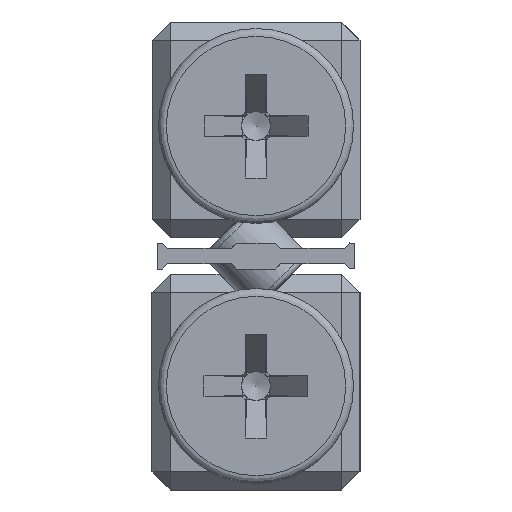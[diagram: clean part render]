
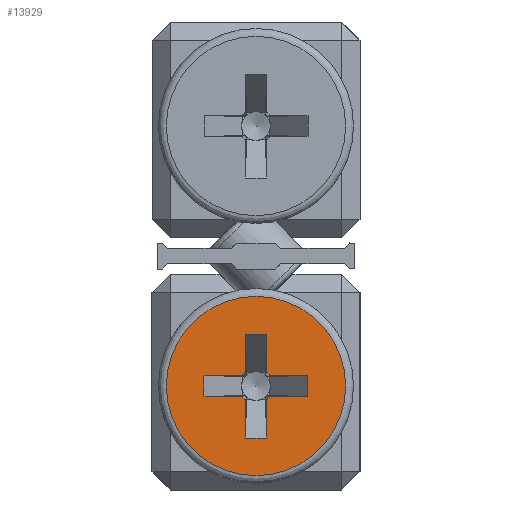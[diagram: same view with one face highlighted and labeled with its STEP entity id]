
A CAD part, left-side view. The second image highlights one B-rep face of the part: STEP entity #13929.
In plain terms, the highlighted planar face has unit normal (-1, 0, 0).
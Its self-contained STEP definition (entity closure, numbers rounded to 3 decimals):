
#73 = EDGE_CURVE ( 'NONE', #12546, #3795, #18029, .T. ) ;
#181 = DIRECTION ( 'NONE',  ( 0., 0., -1. ) ) ;
#473 = VECTOR ( 'NONE', #20820, 1000. ) ;
#956 = EDGE_CURVE ( 'NONE', #15979, #11826, #19957, .T. ) ;
#1233 = DIRECTION ( 'NONE',  ( 0., 0., 1. ) ) ;
#1720 = VERTEX_POINT ( 'NONE', #4071 ) ;
#1757 = CARTESIAN_POINT ( 'NONE',  ( -102., 2., 4.4 ) ) ;
#1973 = VECTOR ( 'NONE', #21692, 1000. ) ;
#2066 = DIRECTION ( 'NONE',  ( 0., 0., -1. ) ) ;
#2179 = CARTESIAN_POINT ( 'NONE',  ( -102., -0.4, 6. ) ) ;
#2181 = VERTEX_POINT ( 'NONE', #15839 ) ;
#2195 = CARTESIAN_POINT ( 'NONE',  ( -102., -0.4, 6. ) ) ;
#2278 = VECTOR ( 'NONE', #6569, 1000. ) ;
#2405 = EDGE_CURVE ( 'NONE', #15979, #13495, #13622, .T. ) ;
#2745 = CARTESIAN_POINT ( 'NONE',  ( -102., -2., 3.6 ) ) ;
#3152 = CIRCLE ( 'NONE', #19480, 0.678 ) ;
#3277 = ORIENTED_EDGE ( 'NONE', *, *, #956, .T. ) ;
#3280 = ORIENTED_EDGE ( 'NONE', *, *, #7242, .F. ) ;
#3320 = AXIS2_PLACEMENT_3D ( 'NONE', #9190, #5351, #12439 ) ;
#3795 = VERTEX_POINT ( 'NONE', #14880 ) ;
#4071 = CARTESIAN_POINT ( 'NONE',  ( -102., 0.4, 6. ) ) ;
#4437 = VERTEX_POINT ( 'NONE', #5511 ) ;
#4710 = CARTESIAN_POINT ( 'NONE',  ( -102., -2., 3.6 ) ) ;
#4948 = CARTESIAN_POINT ( 'NONE',  ( -102., 0.4, 4.548 ) ) ;
#5039 = VECTOR ( 'NONE', #10320, 1000. ) ;
#5235 = DIRECTION ( 'NONE',  ( 0., 1., 0. ) ) ;
#5238 = CARTESIAN_POINT ( 'NONE',  ( -102., 0.4, 2. ) ) ;
#5332 = LINE ( 'NONE', #9053, #17036 ) ;
#5351 = DIRECTION ( 'NONE',  ( 1., 0., 0. ) ) ;
#5384 = VERTEX_POINT ( 'NONE', #13680 ) ;
#5401 = DIRECTION ( 'NONE',  ( -1., 0., 0. ) ) ;
#5402 = ORIENTED_EDGE ( 'NONE', *, *, #12612, .T. ) ;
#5511 = CARTESIAN_POINT ( 'NONE',  ( -102., -0.4, 4.548 ) ) ;
#5538 = CARTESIAN_POINT ( 'NONE',  ( -102., 0.4, 3.452 ) ) ;
#5805 = DIRECTION ( 'NONE',  ( 0., 0., 1. ) ) ;
#5919 = CARTESIAN_POINT ( 'NONE',  ( -102., 2., 4.4 ) ) ;
#5974 = AXIS2_PLACEMENT_3D ( 'NONE', #13572, #5401, #1233 ) ;
#6124 = EDGE_CURVE ( 'NONE', #6417, #10355, #19104, .T. ) ;
#6346 = ORIENTED_EDGE ( 'NONE', *, *, #16851, .F. ) ;
#6417 = VERTEX_POINT ( 'NONE', #8171 ) ;
#6569 = DIRECTION ( 'NONE',  ( 0., 0., 1. ) ) ;
#6666 = CIRCLE ( 'NONE', #20037, 0.678 ) ;
#6712 = LINE ( 'NONE', #2745, #5039 ) ;
#6956 = DIRECTION ( 'NONE',  ( -1., 0., 0. ) ) ;
#7186 = DIRECTION ( 'NONE',  ( 0., 0., 1. ) ) ;
#7242 = EDGE_CURVE ( 'NONE', #8639, #11826, #11531, .T. ) ;
#7272 = AXIS2_PLACEMENT_3D ( 'NONE', #15046, #17808, #12149 ) ;
#7470 = CARTESIAN_POINT ( 'NONE',  ( -102., -0.4, 2. ) ) ;
#7649 = VERTEX_POINT ( 'NONE', #18078 ) ;
#7760 = ORIENTED_EDGE ( 'NONE', *, *, #20269, .F. ) ;
#7856 = LINE ( 'NONE', #14935, #11150 ) ;
#7866 = CARTESIAN_POINT ( 'NONE',  ( -102., 0.548, 3.6 ) ) ;
#8171 = CARTESIAN_POINT ( 'NONE',  ( -102., -2., 3.6 ) ) ;
#8196 = LINE ( 'NONE', #4710, #2278 ) ;
#8362 = ORIENTED_EDGE ( 'NONE', *, *, #73, .T. ) ;
#8430 = ORIENTED_EDGE ( 'NONE', *, *, #17497, .F. ) ;
#8639 = VERTEX_POINT ( 'NONE', #7866 ) ;
#8723 = FACE_OUTER_BOUND ( 'NONE', #16393, .T. ) ;
#8990 = DIRECTION ( 'NONE',  ( 0., -1., 0. ) ) ;
#9053 = CARTESIAN_POINT ( 'NONE',  ( -102., -0.4, 6. ) ) ;
#9154 = VECTOR ( 'NONE', #17693, 1000. ) ;
#9190 = CARTESIAN_POINT ( 'NONE',  ( -102., 3.75, 4. ) ) ;
#9281 = CARTESIAN_POINT ( 'NONE',  ( -102., 0.4, 2. ) ) ;
#9803 = DIRECTION ( 'NONE',  ( 0., 0., 1. ) ) ;
#10320 = DIRECTION ( 'NONE',  ( 0., 1., 0. ) ) ;
#10355 = VERTEX_POINT ( 'NONE', #21791 ) ;
#10435 = ORIENTED_EDGE ( 'NONE', *, *, #2405, .F. ) ;
#10468 = PLANE ( 'NONE',  #3320 ) ;
#10491 = EDGE_CURVE ( 'NONE', #6417, #15887, #8196, .T. ) ;
#10515 = CARTESIAN_POINT ( 'NONE',  ( -102., -2., 3.6 ) ) ;
#10634 = CARTESIAN_POINT ( 'NONE',  ( -102., 2., 4.4 ) ) ;
#11150 = VECTOR ( 'NONE', #16316, 1000. ) ;
#11388 = CIRCLE ( 'NONE', #7272, 3.45 ) ;
#11531 = CIRCLE ( 'NONE', #5974, 0.678 ) ;
#11782 = EDGE_LOOP ( 'NONE', ( #8430, #19208, #10435, #3277, #3280, #16169, #6346, #8362, #14709, #5402, #11797, #16589, #7760, #14134, #18740, #16567 ) ) ;
#11797 = ORIENTED_EDGE ( 'NONE', *, *, #15122, .F. ) ;
#11826 = VERTEX_POINT ( 'NONE', #5538 ) ;
#12149 = DIRECTION ( 'NONE',  ( 0., 0., -1. ) ) ;
#12257 = LINE ( 'NONE', #10634, #9154 ) ;
#12439 = DIRECTION ( 'NONE',  ( 0., 0., -1. ) ) ;
#12515 = CIRCLE ( 'NONE', #18802, 0.678 ) ;
#12546 = VERTEX_POINT ( 'NONE', #5919 ) ;
#12612 = EDGE_CURVE ( 'NONE', #18217, #1720, #14743, .T. ) ;
#13428 = CARTESIAN_POINT ( 'NONE',  ( -102., 2., 3.6 ) ) ;
#13495 = VERTEX_POINT ( 'NONE', #7470 ) ;
#13572 = CARTESIAN_POINT ( 'NONE',  ( -102., 0., 4. ) ) ;
#13622 = LINE ( 'NONE', #22217, #473 ) ;
#13673 = VECTOR ( 'NONE', #5235, 1000. ) ;
#13680 = CARTESIAN_POINT ( 'NONE',  ( -102., -0.548, 4.4 ) ) ;
#13929 = ADVANCED_FACE ( 'NONE', ( #8723, #21259 ), #10468, .F. ) ;
#14134 = ORIENTED_EDGE ( 'NONE', *, *, #22925, .T. ) ;
#14270 = CARTESIAN_POINT ( 'NONE',  ( -102., 0., 4. ) ) ;
#14709 = ORIENTED_EDGE ( 'NONE', *, *, #16493, .F. ) ;
#14743 = LINE ( 'NONE', #17748, #20016 ) ;
#14880 = CARTESIAN_POINT ( 'NONE',  ( -102., 0.548, 4.4 ) ) ;
#14935 = CARTESIAN_POINT ( 'NONE',  ( -102., 2., 4.4 ) ) ;
#15006 = CARTESIAN_POINT ( 'NONE',  ( -102., -2., 4.4 ) ) ;
#15046 = CARTESIAN_POINT ( 'NONE',  ( -102., 0., 4. ) ) ;
#15122 = EDGE_CURVE ( 'NONE', #2181, #1720, #21147, .T. ) ;
#15839 = CARTESIAN_POINT ( 'NONE',  ( -102., -0.4, 6. ) ) ;
#15887 = VERTEX_POINT ( 'NONE', #15006 ) ;
#15979 = VERTEX_POINT ( 'NONE', #5238 ) ;
#16169 = ORIENTED_EDGE ( 'NONE', *, *, #22298, .T. ) ;
#16316 = DIRECTION ( 'NONE',  ( 0., 0., -1. ) ) ;
#16381 = EDGE_CURVE ( 'NONE', #22543, #13495, #5332, .T. ) ;
#16393 = EDGE_LOOP ( 'NONE', ( #21453 ) ) ;
#16493 = EDGE_CURVE ( 'NONE', #18217, #3795, #6666, .T. ) ;
#16567 = ORIENTED_EDGE ( 'NONE', *, *, #6124, .T. ) ;
#16589 = ORIENTED_EDGE ( 'NONE', *, *, #19120, .T. ) ;
#16745 = VECTOR ( 'NONE', #22828, 1000. ) ;
#16777 = CARTESIAN_POINT ( 'NONE',  ( -102., -0.4, 3.452 ) ) ;
#16851 = EDGE_CURVE ( 'NONE', #12546, #22670, #7856, .T. ) ;
#17036 = VECTOR ( 'NONE', #181, 1000. ) ;
#17497 = EDGE_CURVE ( 'NONE', #22543, #10355, #3152, .T. ) ;
#17693 = DIRECTION ( 'NONE',  ( 0., -1., 0. ) ) ;
#17748 = CARTESIAN_POINT ( 'NONE',  ( -102., 0.4, 2. ) ) ;
#17808 = DIRECTION ( 'NONE',  ( -1., 0., 0. ) ) ;
#17869 = LINE ( 'NONE', #2179, #18050 ) ;
#17976 = DIRECTION ( 'NONE',  ( 0., 0., 1. ) ) ;
#18029 = LINE ( 'NONE', #1757, #20143 ) ;
#18050 = VECTOR ( 'NONE', #2066, 1000. ) ;
#18078 = CARTESIAN_POINT ( 'NONE',  ( -102., 0., 0.55 ) ) ;
#18217 = VERTEX_POINT ( 'NONE', #4948 ) ;
#18376 = DIRECTION ( 'NONE',  ( -1., 0., 0. ) ) ;
#18740 = ORIENTED_EDGE ( 'NONE', *, *, #10491, .F. ) ;
#18802 = AXIS2_PLACEMENT_3D ( 'NONE', #22106, #18376, #9803 ) ;
#19104 = LINE ( 'NONE', #10515, #16745 ) ;
#19120 = EDGE_CURVE ( 'NONE', #2181, #4437, #17869, .T. ) ;
#19208 = ORIENTED_EDGE ( 'NONE', *, *, #16381, .T. ) ;
#19375 = CARTESIAN_POINT ( 'NONE',  ( -102., 0., 4. ) ) ;
#19480 = AXIS2_PLACEMENT_3D ( 'NONE', #14270, #19848, #17976 ) ;
#19848 = DIRECTION ( 'NONE',  ( -1., 0., 0. ) ) ;
#19957 = LINE ( 'NONE', #9281, #1973 ) ;
#20016 = VECTOR ( 'NONE', #5805, 1000. ) ;
#20037 = AXIS2_PLACEMENT_3D ( 'NONE', #19375, #6956, #7186 ) ;
#20143 = VECTOR ( 'NONE', #8990, 1000. ) ;
#20269 = EDGE_CURVE ( 'NONE', #5384, #4437, #12515, .T. ) ;
#20820 = DIRECTION ( 'NONE',  ( 0., -1., 0. ) ) ;
#21147 = LINE ( 'NONE', #2195, #13673 ) ;
#21259 = FACE_BOUND ( 'NONE', #11782, .T. ) ;
#21453 = ORIENTED_EDGE ( 'NONE', *, *, #22800, .T. ) ;
#21692 = DIRECTION ( 'NONE',  ( 0., 0., 1. ) ) ;
#21791 = CARTESIAN_POINT ( 'NONE',  ( -102., -0.548, 3.6 ) ) ;
#22106 = CARTESIAN_POINT ( 'NONE',  ( -102., 0., 4. ) ) ;
#22217 = CARTESIAN_POINT ( 'NONE',  ( -102., 0.4, 2. ) ) ;
#22298 = EDGE_CURVE ( 'NONE', #8639, #22670, #6712, .T. ) ;
#22543 = VERTEX_POINT ( 'NONE', #16777 ) ;
#22670 = VERTEX_POINT ( 'NONE', #13428 ) ;
#22800 = EDGE_CURVE ( 'NONE', #7649, #7649, #11388, .T. ) ;
#22828 = DIRECTION ( 'NONE',  ( 0., 1., 0. ) ) ;
#22925 = EDGE_CURVE ( 'NONE', #5384, #15887, #12257, .T. ) ;
